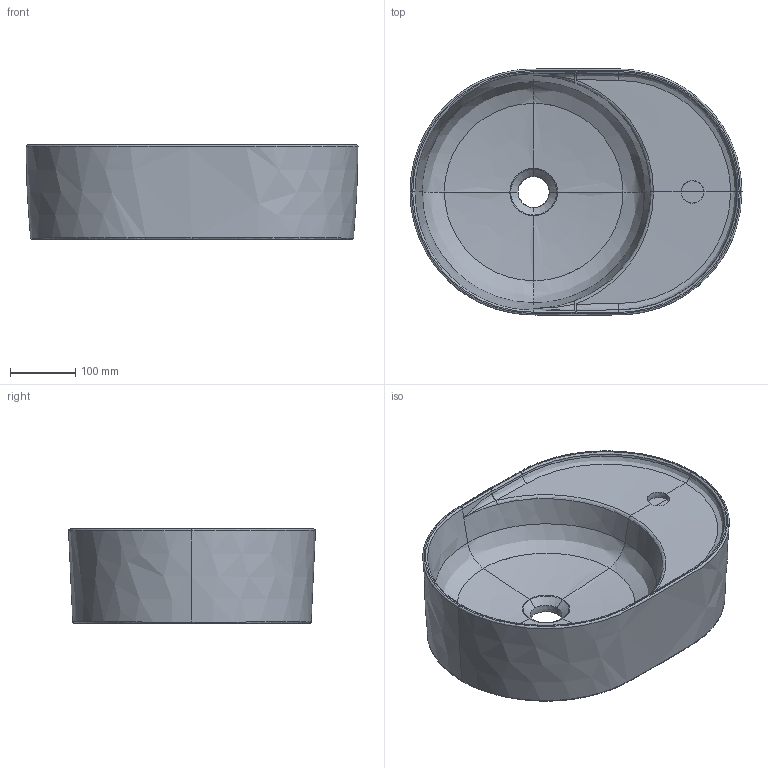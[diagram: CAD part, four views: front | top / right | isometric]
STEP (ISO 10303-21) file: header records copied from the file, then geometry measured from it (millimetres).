
FILE_DESCRIPTION(/* description */ (''),/* implementation_level */ '2;1');
FILE_NAME(/* name */ '4A1550_Tibet_AWT_oval_mit_HLB.stp',/* time_stamp */ '2018-11-21T13:02:22+01:00',/* author */ (''),/* organization */ (''),/* preprocessor_version */ 'ST-DEVELOPER v16',/* originating_system */ 'SIEMENS PLM Software NX 10.0',/* authorisation */ '');
FILE_SCHEMA (('AUTOMOTIVE_DESIGN { 1 0 10303 214 3 1 1 1 }'));
Products named in the file (1): Sier1884FB70j4b7
Bounding box: 509.99 x 379.49 x 145 mm (x, y, z)
Volume: 11304702.6 mm3; surface area: 619113.5 mm2
Topology: 1 solids, 1 shells, 158 faces, 379 edges, 221 vertices
Faces by surface type: bspline 100, cone 16, plane 14, torus 12, cylinder 10, revolution 4, extrusion 2
Entity records: 202541 total; most frequent: CARTESIAN_POINT 199714, ORIENTED_EDGE 754, EDGE_CURVE 377, DIRECTION 325, VERTEX_POINT 221, B_SPLINE_CURVE_WITH_KNOTS 213, EDGE_LOOP 160, ADVANCED_FACE 158
